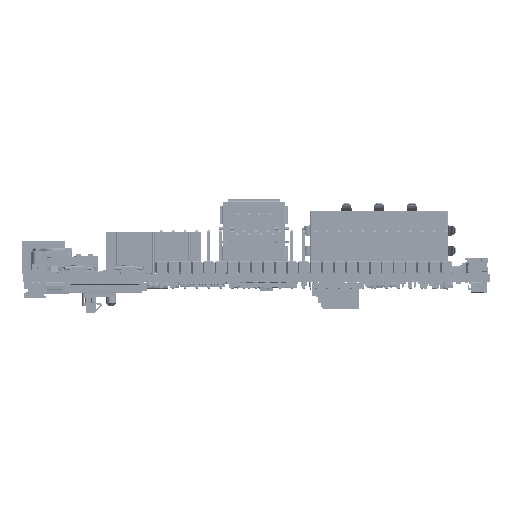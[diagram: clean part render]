
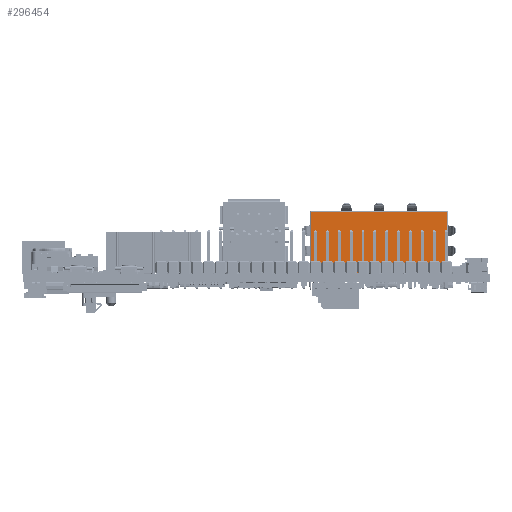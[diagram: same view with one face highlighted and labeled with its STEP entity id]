
A CAD part, front view. The second image highlights one B-rep face of the part: STEP entity #296454.
In plain terms, the highlighted planar face has unit normal (0, -1, 0) as drawn and (0, 1, 0) by its records, which use the part's own axes.
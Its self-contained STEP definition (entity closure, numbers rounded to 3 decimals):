
#296454 = ADVANCED_FACE('',(#296455),#296489,.F.);
#296455 = FACE_BOUND('',#296456,.F.);
#296456 = EDGE_LOOP('',(#296457,#296467,#296475,#296483));
#296457 = ORIENTED_EDGE('',*,*,#296458,.F.);
#296458 = EDGE_CURVE('',#296459,#296461,#296463,.T.);
#296459 = VERTEX_POINT('',#296460);
#296460 = CARTESIAN_POINT('',(14.54,25.4,13.411));
#296461 = VERTEX_POINT('',#296462);
#296462 = CARTESIAN_POINT('',(14.54,25.4,0.351));
#296463 = LINE('',#296464,#296465);
#296464 = CARTESIAN_POINT('',(14.54,25.4,13.411));
#296465 = VECTOR('',#296466,1.);
#296466 = DIRECTION('',(0.,0.,-1.));
#296467 = ORIENTED_EDGE('',*,*,#296468,.F.);
#296468 = EDGE_CURVE('',#296469,#296459,#296471,.T.);
#296469 = VERTEX_POINT('',#296470);
#296470 = CARTESIAN_POINT('',(-14.58,25.4,13.411));
#296471 = LINE('',#296472,#296473);
#296472 = CARTESIAN_POINT('',(-14.58,25.4,13.411));
#296473 = VECTOR('',#296474,1.);
#296474 = DIRECTION('',(1.,0.,0.));
#296475 = ORIENTED_EDGE('',*,*,#296476,.F.);
#296476 = EDGE_CURVE('',#296477,#296469,#296479,.T.);
#296477 = VERTEX_POINT('',#296478);
#296478 = CARTESIAN_POINT('',(-14.58,25.4,0.351));
#296479 = LINE('',#296480,#296481);
#296480 = CARTESIAN_POINT('',(-14.58,25.4,0.351));
#296481 = VECTOR('',#296482,1.);
#296482 = DIRECTION('',(0.,0.,1.));
#296483 = ORIENTED_EDGE('',*,*,#296484,.T.);
#296484 = EDGE_CURVE('',#296477,#296461,#296485,.T.);
#296485 = LINE('',#296486,#296487);
#296486 = CARTESIAN_POINT('',(-14.58,25.4,0.351));
#296487 = VECTOR('',#296488,1.);
#296488 = DIRECTION('',(1.,0.,0.));
#296489 = PLANE('',#296490);
#296490 = AXIS2_PLACEMENT_3D('',#296491,#296492,#296493);
#296491 = CARTESIAN_POINT('',(-0.02,25.4,6.901));
#296492 = DIRECTION('',(0.,-1.,0.));
#296493 = DIRECTION('',(1.,0.,0.));
